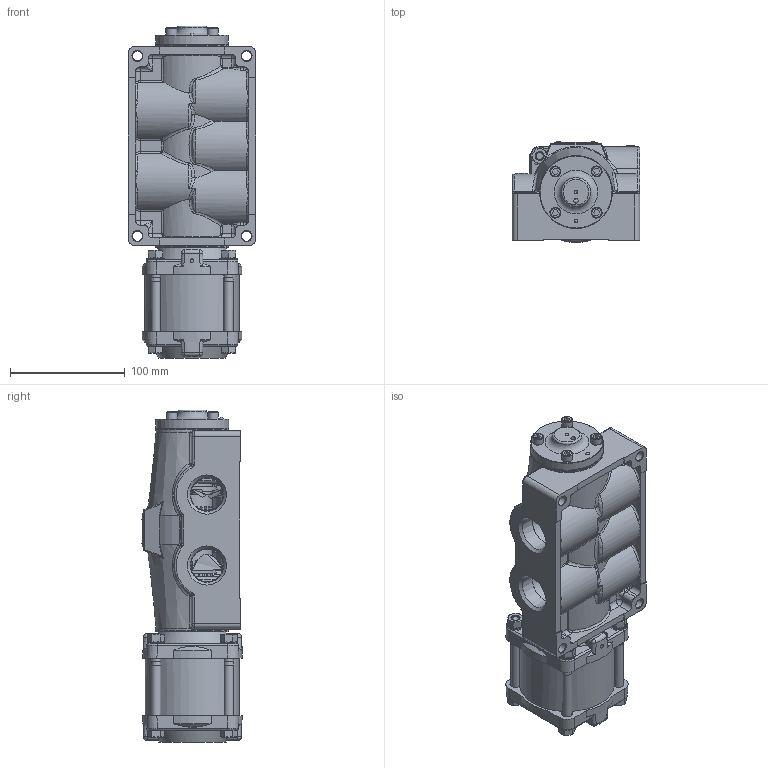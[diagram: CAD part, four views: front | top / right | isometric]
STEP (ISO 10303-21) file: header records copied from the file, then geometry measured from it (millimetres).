
FILE_DESCRIPTION(/* description */ (''),/* implementation_level */ '2;1');
FILE_NAME(/* name */ 'D:\Website Files\stp\Valves\Piston\PO\PO8.stp',/* time_stamp */ '2017-02-26T00:09:25-05:00',/* author */ ('RMcKenna'),/* organization */ (''),/* preprocessor_version */ 'ST-DEVELOPER v15.6',/* originating_system */ 'Autodesk Inventor 2015',/* authorisation */ '');
FILE_SCHEMA (('AUTOMOTIVE_DESIGN { 1 0 10303 214 3 1 1 }'));
Products named in the file (1): Part8
Bounding box: 111.12 x 87.73 x 289.61 mm (x, y, z)
Volume: 1173057.1 mm3; surface area: 270665.2 mm2
Topology: 3 solids, 16 shells, 2467 faces, 5978 edges, 3614 vertices
Faces by surface type: plane 833, cylinder 602, cone 414, bspline 341, torus 184, sphere 93
Full cylindrical faces by diameter (mm): 2.07 x2, 2.261 x2, 2.381 x1, 2.778 x2, 3.175 x2, 3.962 x2, 3.969 x1, 4.978 x8, 6.35 x4, 6.401 x4, 7.137 x8, 7.144 x8, 7.938 x4, 8.128 x4, 8.23 x4, 8.712 x4, 9.5 x3, 9.525 x4, 10.719 x1, 12.7 x4, 15.081 x1, 15.875 x1, 16.002 x1, 17.323 x1, 19.253 x2, 25.4 x1, 28.219 x1, 28.575 x6, 34.569 x1, 34.671 x12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
Entity records: 99616 total; most frequent: CARTESIAN_POINT 44005, ORIENTED_EDGE 11178, DIRECTION 10643, EDGE_CURVE 5589, AXIS2_PLACEMENT_3D 4343, VERTEX_POINT 3517, EDGE_LOOP 2880, FACE_OUTER_BOUND 2467
